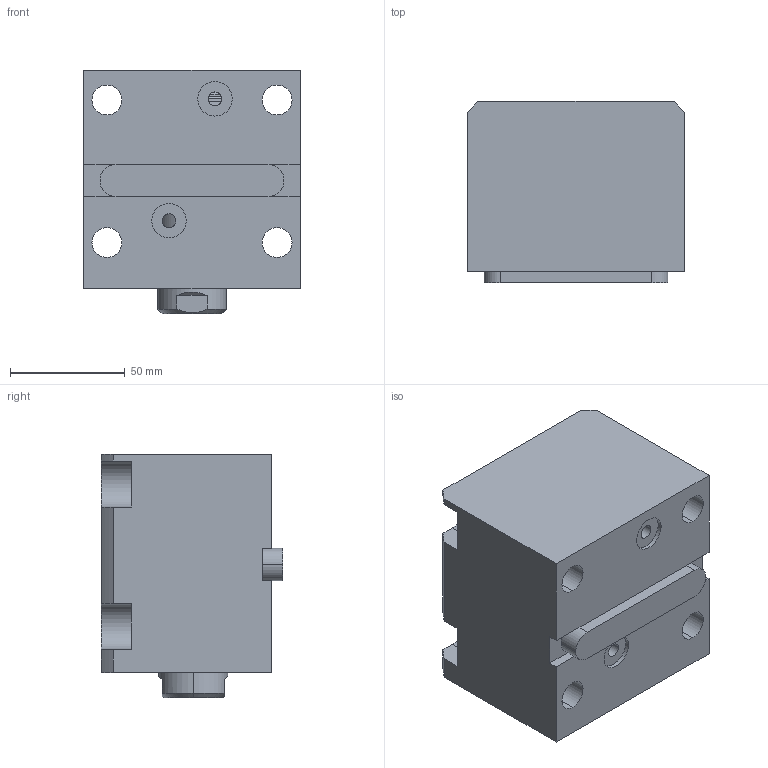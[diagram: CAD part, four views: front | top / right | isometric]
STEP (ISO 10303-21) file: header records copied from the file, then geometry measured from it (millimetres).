
FILE_DESCRIPTION (( 'STEP AP203' ), '1' );
FILE_NAME ('CHTB-LAM50-35N.STEP', '2018-05-23T10:16:44', ( '' ), ( '' ), 'SwSTEP 2.0', 'SolidWorks 2015', '' );
FILE_SCHEMA (( 'CONFIG_CONTROL_DESIGN' ));
Length unit declared in the file: millimetre
Products named in the file (4): 活塞杆LAM50-35N; CHTM-SDMA50QG; 掛极LAM50-35N; CHTB-LAM50-35N
Assembly tree (3 placements, depth 2):
  CHTB-LAM50-35N
    掛极LAM50-35N
    活塞杆LAM50-35N
    CHTM-SDMA50QG
Bounding box: 94 x 79 x 106 mm (x, y, z)
Volume: 562502.7 mm3; surface area: 103496.1 mm2
Topology: 3 solids, 3 shells, 192 faces, 524 edges, 347 vertices
Faces by surface type: cylinder 96, plane 51, torus 16, cone 15, bspline 14
Entity records: 11011 total; most frequent: CARTESIAN_POINT 5956, ORIENTED_EDGE 1036, DIRECTION 908, EDGE_CURVE 518, AXIS2_PLACEMENT_3D 356, VERTEX_POINT 347, EDGE_LOOP 221, LINE 196
